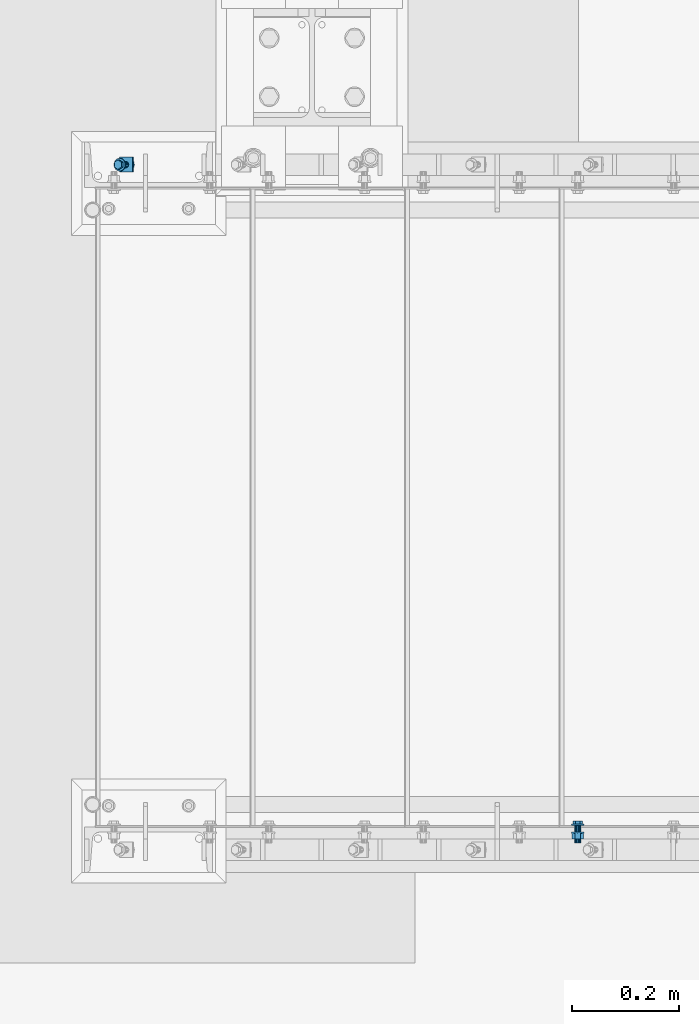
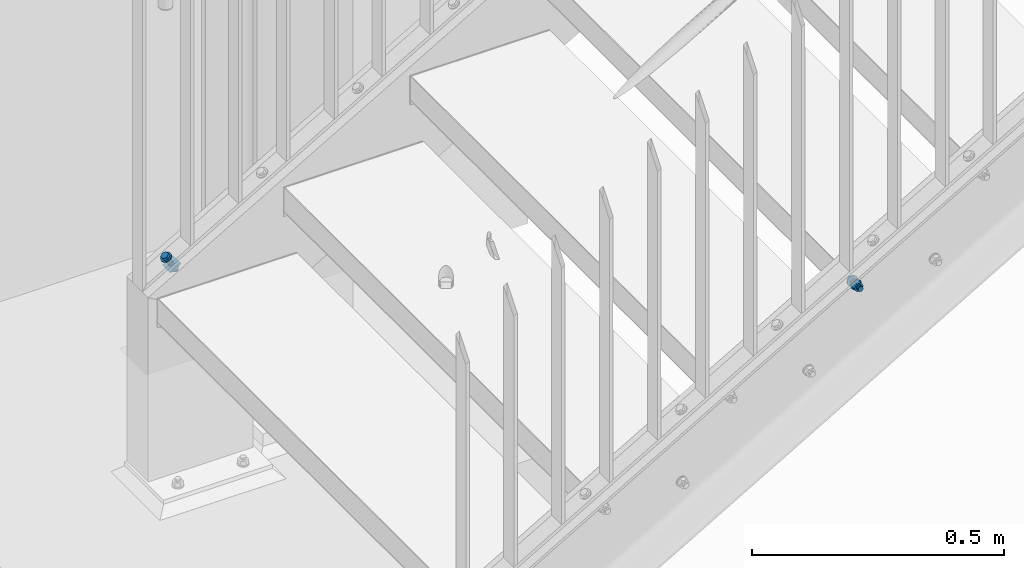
# One storey, part 52 of 145: 2 mechanical fasteners.
"""IFC2X3 building model written with IfcOpenShell, lengths in millimetres."""

from ifc_helpers import new_model, entity, si_unit, converted_unit, origin_with_axes, place, context, project, spatial, faceted_brep, element, save


model = new_model("IFC2X3")

# Units and contexts
model_context = context("Model", 3, precision=1e-09, world=origin_with_axes())
ifc_project = project(units=[si_unit("LENGTHUNIT", "METRE", prefix="MILLI"), si_unit("AREAUNIT", "SQUARE_METRE"), si_unit("VOLUMEUNIT", "CUBIC_METRE"), converted_unit("PLANEANGLEUNIT", "DEGREE", entity("IfcPlaneAngleMeasure", 0.01745329), si_unit("PLANEANGLEUNIT", "RADIAN"), dimensions=[0, 0, 0, 0, 0, 0, 0])], contexts=[model_context])

# Site, building, storey
site_placement = place(None, origin_with_axes())
site = spatial("IfcSite", under=ifc_project, at=site_placement, Name="BZ1 Grund- und Mittelschule 85716 Unterschlei?heim", CompositionType="ELEMENT")
building_placement = place(site_placement, origin_with_axes())
building = spatial("IfcBuilding", under=site, at=building_placement, Name="Struktur 1", CompositionType="ELEMENT")
storey_placement = place(building_placement, origin_with_axes())
storey = spatial("IfcBuildingStorey", under=building, at=storey_placement, Name="Default Storey", CompositionType="ELEMENT", Elevation=0.0)

# Mechanical fasteners
mechanical_fastener_1_placement = place(None, origin_with_axes())
element("IfcMechanicalFastener", 1, at=mechanical_fastener_1_placement, inside=storey, ObjectType="-", NominalDiameter=12.0, NominalLength=45.0, context=model_context, shape_type="Brep", body=[
    faceted_brep([(16700.949497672, -1877.502, -240.94021427), (16699.692769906, -1877.502, -238.779049), (16699.892095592, -1875.160916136, -238.663140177), (16701.148823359, -1875.160916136, -240.824305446), (16700.482412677, -1872.909798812, -238.319868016), (16701.739140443, -1872.909798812, -240.481033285), (16701.441035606, -1870.835157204, -237.762424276), (16702.697763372, -1870.835157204, -239.923589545), (16702.731125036, -1869.016718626, -237.012231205), (16703.987852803, -1869.016718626, -239.173396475), (16704.303103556, -1867.524364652, -236.098118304), (16705.559831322, -1867.524364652, -238.259283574), (16706.096560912, -1866.41544561, -235.055214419), (16707.353288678, -1866.41544561, -237.216379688), (16708.042575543, -1865.732576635, -233.92359776), (16709.299303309, -1865.732576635, -236.08476303), (16710.066363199, -1865.502, -232.746755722), (16711.323090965, -1865.502, -234.907920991), (16712.090150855, -1865.732576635, -231.569913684), (16713.346878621, -1865.732576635, -233.731078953), (16714.036165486, -1866.41544561, -230.438297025), (16715.292893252, -1866.41544561, -232.599462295), (16715.829622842, -1867.524364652, -229.39539314), (16717.086350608, -1867.524364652, -231.556558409), (16717.401601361, -1869.016718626, -228.481280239), (16718.658329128, -1869.016718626, -230.642445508), (16718.691690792, -1870.835157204, -227.731087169), (16719.948418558, -1870.835157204, -229.892252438), (16719.650313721, -1872.909798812, -227.173643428), (16720.907041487, -1872.909798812, -229.334808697), (16720.240630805, -1875.160916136, -226.830371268), (16721.497358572, -1875.160916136, -228.991536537), (16720.439956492, -1877.502, -226.714462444), (16721.696684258, -1877.502, -228.875627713), (16720.240630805, -1879.843083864, -226.830371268), (16721.497358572, -1879.843083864, -228.991536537), (16719.650313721, -1882.094201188, -227.173643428), (16720.907041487, -1882.094201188, -229.334808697), (16718.691690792, -1884.168842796, -227.731087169), (16719.948418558, -1884.168842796, -229.892252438), (16717.401601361, -1885.987281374, -228.481280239), (16718.658329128, -1885.987281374, -230.642445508), (16715.829622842, -1887.479635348, -229.39539314), (16717.086350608, -1887.479635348, -231.556558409), (16714.036165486, -1888.58855439, -230.438297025), (16715.292893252, -1888.58855439, -232.599462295), (16712.090150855, -1889.271423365, -231.569913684), (16713.346878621, -1889.271423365, -233.731078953), (16710.066363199, -1889.502, -232.746755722), (16711.323090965, -1889.502, -234.907920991), (16708.042575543, -1889.271423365, -233.92359776), (16709.299303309, -1889.271423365, -236.08476303), (16706.096560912, -1888.58855439, -235.055214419), (16707.353288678, -1888.58855439, -237.216379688), (16704.303103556, -1887.479635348, -236.098118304), (16705.559831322, -1887.479635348, -238.259283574), (16702.731125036, -1885.987281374, -237.012231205), (16703.987852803, -1885.987281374, -239.173396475), (16701.441035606, -1884.168842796, -237.762424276), (16702.697763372, -1884.168842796, -239.923589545), (16700.482412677, -1882.094201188, -238.319868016), (16701.739140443, -1882.094201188, -240.481033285), (16699.892095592, -1879.843083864, -238.663140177), (16701.148823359, -1879.843083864, -240.824305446)], [[[0, 1, 2, 3]], [[3, 2, 4, 5]], [[5, 4, 6, 7]], [[7, 6, 8, 9]], [[9, 8, 10, 11]], [[11, 10, 12, 13]], [[13, 12, 14, 15]], [[15, 14, 16, 17]], [[17, 16, 18, 19]], [[19, 18, 20, 21]], [[21, 20, 22, 23]], [[23, 22, 24, 25]], [[25, 24, 26, 27]], [[27, 26, 28, 29]], [[29, 28, 30, 31]], [[31, 30, 32, 33]], [[33, 32, 34, 35]], [[35, 34, 36, 37]], [[37, 36, 38, 39]], [[39, 38, 40, 41]], [[41, 40, 42, 43]], [[43, 42, 44, 45]], [[45, 44, 46, 47]], [[47, 46, 48, 49]], [[49, 48, 50, 51]], [[51, 50, 52, 53]], [[53, 52, 54, 55]], [[55, 54, 56, 57]], [[57, 56, 58, 59]], [[59, 58, 60, 61]], [[61, 60, 62, 63]], [[63, 62, 1, 0]], [[2, 1, 62, 60, 58, 56, 54, 52, 50, 48, 46, 44, 42, 40, 38, 36, 34, 32, 30, 28, 26, 24, 22, 20, 18, 16, 14, 12, 10, 8, 6, 4]], [[63, 0, 3, 5, 7, 9, 11, 13, 15, 17, 19, 21, 23, 25, 27, 29, 31, 33, 35, 37, 39, 41, 43, 45, 47, 49, 51, 53, 55, 57, 59, 61]]]),
    faceted_brep([(16713.500891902, -1873.0595, -223.346147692), (16716.718114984, -1873.0595, -228.878730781), (16710.066363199, -1868.617, -232.746755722), (16706.849140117, -1868.617, -227.214172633), (16703.414611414, -1873.0595, -236.614780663), (16700.197388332, -1873.0595, -231.082197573), (16703.414611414, -1881.9445, -236.614780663), (16700.197388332, -1881.9445, -231.082197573), (16710.066363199, -1886.387, -232.746755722), (16706.849140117, -1886.387, -227.214172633), (16716.718114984, -1881.9445, -228.878730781), (16713.500891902, -1881.9445, -223.346147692)], [[[0, 1, 2, 3]], [[3, 2, 4, 5]], [[5, 4, 6, 7]], [[7, 6, 8, 9]], [[9, 8, 10, 11]], [[11, 10, 1, 0]], [[3, 5, 7, 9, 11, 0]], [[2, 1, 10, 8, 6, 4]]]),
    faceted_brep([(16717.036056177, -1877.502, -256.668132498), (16706.136294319, -1877.502, -237.924067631), (16706.531115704, -1875.205899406, -237.694477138), (16717.430877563, -1875.205899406, -256.438542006), (16707.655471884, -1873.259359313, -237.040658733), (16718.555233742, -1873.259359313, -255.7847236), (16709.338189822, -1871.958722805, -236.06215034), (16720.23795168, -1871.958722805, -254.806215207), (16711.323090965, -1871.502, -234.907920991), (16722.222852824, -1871.502, -253.651985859), (16713.307992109, -1871.958722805, -233.753691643), (16724.207753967, -1871.958722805, -252.49775651), (16714.990710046, -1873.259359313, -232.77518325), (16725.890471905, -1873.259359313, -251.519248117), (16716.115066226, -1875.205899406, -232.121364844), (16727.014828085, -1875.205899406, -250.865429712), (16716.509887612, -1877.502, -231.891774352), (16727.40964947, -1877.502, -250.63583922), (16716.115066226, -1879.798100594, -232.121364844), (16727.014828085, -1879.798100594, -250.865429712), (16714.990710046, -1881.744640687, -232.77518325), (16725.890471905, -1881.744640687, -251.519248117), (16713.307992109, -1883.045277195, -233.753691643), (16724.207753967, -1883.045277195, -252.49775651), (16711.323090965, -1883.502, -234.907920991), (16722.222852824, -1883.502, -253.651985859), (16709.338189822, -1883.045277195, -236.06215034), (16720.23795168, -1883.045277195, -254.806215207), (16707.655471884, -1881.744640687, -237.040658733), (16718.555233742, -1881.744640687, -255.7847236), (16706.531115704, -1879.798100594, -237.694477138), (16717.430877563, -1879.798100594, -256.438542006)], [[[0, 1, 2, 3]], [[3, 2, 4, 5]], [[5, 4, 6, 7]], [[7, 6, 8, 9]], [[9, 8, 10, 11]], [[11, 10, 12, 13]], [[13, 12, 14, 15]], [[15, 14, 16, 17]], [[17, 16, 18, 19]], [[19, 18, 20, 21]], [[21, 20, 22, 23]], [[23, 22, 24, 25]], [[25, 24, 26, 27]], [[27, 26, 28, 29]], [[29, 28, 30, 31]], [[31, 30, 1, 0]], [[2, 1, 30, 28, 26, 24, 22, 20, 18, 16, 14, 12, 10, 8, 6, 4]], [[31, 0, 3, 5, 7, 9, 11, 13, 15, 17, 19, 21, 23, 25, 27, 29]]]),
    faceted_brep([(16734.448249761, -1863.359864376, -246.542860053), (16736.459014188, -1863.359864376, -250.000724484), (16712.008220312, -1863.359864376, -264.218976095), (16709.997455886, -1863.359864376, -260.761111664), (16712.008220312, -1891.644135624, -264.218976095), (16709.997455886, -1891.644135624, -260.761111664), (16736.459014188, -1891.644135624, -250.000724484), (16734.448249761, -1891.644135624, -246.542860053)], [[[0, 1, 2, 3]], [[3, 2, 4, 5]], [[5, 4, 6, 7]], [[7, 6, 1, 0]], [[3, 5, 7, 0]], [[2, 1, 6, 4]]]),
    faceted_brep([(16732.131870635, -1872.227, -252.516978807), (16737.158781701, -1872.227, -261.161639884), (16729.260528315, -1866.952, -265.754511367), (16724.23361725, -1866.952, -257.10985029), (16721.36227493, -1872.227, -270.34738285), (16716.335363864, -1872.227, -261.702721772), (16721.36227493, -1882.777, -270.34738285), (16716.335363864, -1882.777, -261.702721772), (16729.260528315, -1888.052, -265.754511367), (16724.23361725, -1888.052, -257.10985029), (16737.158781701, -1882.777, -261.161639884), (16732.131870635, -1882.777, -252.516978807)], [[[0, 1, 2, 3]], [[3, 2, 4, 5]], [[5, 4, 6, 7]], [[7, 6, 8, 9]], [[9, 8, 10, 11]], [[11, 10, 1, 0]], [[3, 5, 7, 9, 11, 0]], [[2, 1, 10, 8, 6, 4]]]),
    faceted_brep([(16727.500666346, -1877.502, -274.663877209), (16724.073731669, -1877.502, -268.770658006), (16724.468553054, -1875.205899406, -268.541067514), (16727.895487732, -1875.205899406, -274.434286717), (16725.592909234, -1873.259359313, -267.887249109), (16729.019843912, -1873.259359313, -273.780468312), (16727.275627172, -1871.958722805, -266.908740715), (16730.702561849, -1871.958722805, -272.801959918), (16729.260528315, -1871.502, -265.754511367), (16732.687462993, -1871.502, -271.64773057), (16731.245429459, -1871.958722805, -264.600282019), (16734.672364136, -1871.958722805, -270.493501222), (16732.928147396, -1873.259359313, -263.621773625), (16736.355082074, -1873.259359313, -269.514992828), (16734.052503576, -1875.205899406, -262.96795522), (16737.479438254, -1875.205899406, -268.861174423), (16734.447324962, -1877.502, -262.738364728), (16737.874259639, -1877.502, -268.631583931), (16734.052503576, -1879.798100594, -262.96795522), (16737.479438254, -1879.798100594, -268.861174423), (16732.928147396, -1881.744640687, -263.621773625), (16736.355082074, -1881.744640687, -269.514992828), (16731.245429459, -1883.045277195, -264.600282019), (16734.672364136, -1883.045277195, -270.493501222), (16729.260528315, -1883.502, -265.754511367), (16732.687462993, -1883.502, -271.64773057), (16727.275627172, -1883.045277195, -266.908740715), (16730.702561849, -1883.045277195, -272.801959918), (16725.592909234, -1881.744640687, -267.887249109), (16729.019843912, -1881.744640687, -273.780468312), (16724.468553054, -1879.798100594, -268.541067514), (16727.895487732, -1879.798100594, -274.434286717)], [[[0, 1, 2, 3]], [[3, 2, 4, 5]], [[5, 4, 6, 7]], [[7, 6, 8, 9]], [[9, 8, 10, 11]], [[11, 10, 12, 13]], [[13, 12, 14, 15]], [[15, 14, 16, 17]], [[17, 16, 18, 19]], [[19, 18, 20, 21]], [[21, 20, 22, 23]], [[23, 22, 24, 25]], [[25, 24, 26, 27]], [[27, 26, 28, 29]], [[29, 28, 30, 31]], [[31, 30, 1, 0]], [[2, 1, 30, 28, 26, 24, 22, 20, 18, 16, 14, 12, 10, 8, 6, 4]], [[31, 0, 3, 5, 7, 9, 11, 13, 15, 17, 19, 21, 23, 25, 27, 29]]]),
])
mechanical_fastener_2_placement = place(None, origin_with_axes())
element("IfcMechanicalFastener", 2, at=mechanical_fastener_2_placement, inside=storey, ObjectType="-", NominalDiameter=12.0, NominalLength=35.0, context=model_context, shape_type="Brep", body=[
    faceted_brep([(17569.545399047, -3114.502, 147.545455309), (17569.545399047, -3117.002, 147.545455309), (17567.204315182, -3117.002, 147.776031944), (17567.204315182, -3114.502, 147.776031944), (17564.953197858, -3117.002, 148.458900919), (17564.953197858, -3114.502, 148.458900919), (17562.87855625, -3117.002, 149.567819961), (17562.87855625, -3114.502, 149.567819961), (17561.060117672, -3117.002, 151.060173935), (17561.060117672, -3114.502, 151.060173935), (17559.567763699, -3117.002, 152.878612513), (17559.567763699, -3114.502, 152.878612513), (17558.458844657, -3117.002, 154.953254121), (17558.458844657, -3114.502, 154.953254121), (17557.775975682, -3117.002, 157.204371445), (17557.775975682, -3114.502, 157.204371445), (17557.545399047, -3117.002, 159.545455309), (17557.545399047, -3114.502, 159.545455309), (17557.775975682, -3117.002, 161.886539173), (17557.775975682, -3114.502, 161.886539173), (17558.458844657, -3117.002, 164.137656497), (17558.458844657, -3114.502, 164.137656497), (17559.567763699, -3117.002, 166.212298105), (17559.567763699, -3114.502, 166.212298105), (17561.060117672, -3117.002, 168.030736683), (17561.060117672, -3114.502, 168.030736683), (17562.87855625, -3117.002, 169.523090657), (17562.87855625, -3114.502, 169.523090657), (17564.953197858, -3117.002, 170.632009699), (17564.953197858, -3114.502, 170.632009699), (17567.204315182, -3117.002, 171.314878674), (17567.204315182, -3114.502, 171.314878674), (17569.545399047, -3117.002, 171.545455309), (17569.545399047, -3114.502, 171.545455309), (17571.886482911, -3117.002, 171.314878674), (17571.886482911, -3114.502, 171.314878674), (17574.137600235, -3117.002, 170.632009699), (17574.137600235, -3114.502, 170.632009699), (17576.212241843, -3117.002, 169.523090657), (17576.212241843, -3114.502, 169.523090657), (17578.030680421, -3117.002, 168.030736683), (17578.030680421, -3114.502, 168.030736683), (17579.523034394, -3117.002, 166.212298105), (17579.523034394, -3114.502, 166.212298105), (17580.631953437, -3117.002, 164.137656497), (17580.631953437, -3114.502, 164.137656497), (17581.314822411, -3117.002, 161.886539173), (17581.314822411, -3114.502, 161.886539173), (17581.545399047, -3117.002, 159.545455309), (17581.545399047, -3114.502, 159.545455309), (17581.314822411, -3117.002, 157.204371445), (17581.314822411, -3114.502, 157.204371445), (17580.631953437, -3117.002, 154.953254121), (17580.631953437, -3114.502, 154.953254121), (17579.523034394, -3117.002, 152.878612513), (17579.523034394, -3114.502, 152.878612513), (17578.030680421, -3117.002, 151.060173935), (17578.030680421, -3114.502, 151.060173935), (17576.212241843, -3117.002, 149.567819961), (17576.212241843, -3114.502, 149.567819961), (17574.137600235, -3117.002, 148.458900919), (17574.137600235, -3114.502, 148.458900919), (17571.886482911, -3117.002, 147.776031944), (17571.886482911, -3114.502, 147.776031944)], [[[0, 1, 2, 3]], [[3, 2, 4, 5]], [[5, 4, 6, 7]], [[7, 6, 8, 9]], [[9, 8, 10, 11]], [[11, 10, 12, 13]], [[13, 12, 14, 15]], [[15, 14, 16, 17]], [[17, 16, 18, 19]], [[19, 18, 20, 21]], [[21, 20, 22, 23]], [[23, 22, 24, 25]], [[25, 24, 26, 27]], [[27, 26, 28, 29]], [[29, 28, 30, 31]], [[31, 30, 32, 33]], [[33, 32, 34, 35]], [[35, 34, 36, 37]], [[37, 36, 38, 39]], [[39, 38, 40, 41]], [[41, 40, 42, 43]], [[43, 42, 44, 45]], [[45, 44, 46, 47]], [[47, 46, 48, 49]], [[49, 48, 50, 51]], [[51, 50, 52, 53]], [[53, 52, 54, 55]], [[55, 54, 56, 57]], [[57, 56, 58, 59]], [[59, 58, 60, 61]], [[61, 60, 62, 63]], [[63, 62, 1, 0]], [[0, 3, 5, 7, 9, 11, 13, 15, 17, 19, 21, 23, 25, 27, 29, 31, 33, 35, 37, 39, 41, 43, 45, 47, 49, 51, 53, 55, 57, 59, 61, 63]], [[1, 62, 60, 58, 56, 54, 52, 50, 48, 46, 44, 42, 40, 38, 36, 34, 32, 30, 28, 26, 24, 22, 20, 18, 16, 14, 12, 10, 8, 6, 4, 2]]]),
    faceted_brep([(17565.102899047, -3114.502, 167.240091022), (17565.102899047, -3108.102, 167.240091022), (17560.660399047, -3108.102, 159.545455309), (17560.660399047, -3114.502, 159.545455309), (17565.102899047, -3108.102, 151.850819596), (17565.102899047, -3114.502, 151.850819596), (17573.987899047, -3108.102, 151.850819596), (17573.987899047, -3114.502, 151.850819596), (17578.430399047, -3108.102, 159.545455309), (17578.430399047, -3114.502, 159.545455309), (17573.987899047, -3108.102, 167.240091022), (17573.987899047, -3114.502, 167.240091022)], [[[0, 1, 2, 3]], [[3, 2, 4, 5]], [[5, 4, 6, 7]], [[7, 6, 8, 9]], [[9, 8, 10, 11]], [[11, 10, 1, 0]], [[4, 2, 1, 10, 8, 6]], [[0, 3, 5, 7, 9, 11]]]),
    faceted_brep([(17569.545399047, -3117.002, 153.545455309), (17569.545399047, -3129.502, 153.545455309), (17567.249298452, -3129.502, 154.002178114), (17567.249298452, -3117.002, 154.002178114), (17565.30275836, -3129.502, 155.302814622), (17565.30275836, -3117.002, 155.302814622), (17564.002121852, -3129.502, 157.249354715), (17564.002121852, -3117.002, 157.249354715), (17563.545399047, -3129.502, 159.545455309), (17563.545399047, -3117.002, 159.545455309), (17564.002121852, -3129.502, 161.841555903), (17564.002121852, -3117.002, 161.841555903), (17565.30275836, -3129.502, 163.788095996), (17565.30275836, -3117.002, 163.788095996), (17567.249298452, -3129.502, 165.088732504), (17567.249298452, -3117.002, 165.088732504), (17569.545399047, -3129.502, 165.545455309), (17569.545399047, -3117.002, 165.545455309), (17571.841499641, -3129.502, 165.088732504), (17571.841499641, -3117.002, 165.088732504), (17573.788039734, -3129.502, 163.788095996), (17573.788039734, -3117.002, 163.788095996), (17575.088676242, -3129.502, 161.841555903), (17575.088676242, -3117.002, 161.841555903), (17575.545399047, -3129.502, 159.545455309), (17575.545399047, -3117.002, 159.545455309), (17575.088676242, -3129.502, 157.249354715), (17575.088676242, -3117.002, 157.249354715), (17573.788039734, -3129.502, 155.302814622), (17573.788039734, -3117.002, 155.302814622), (17571.841499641, -3129.502, 154.002178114), (17571.841499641, -3117.002, 154.002178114)], [[[0, 1, 2, 3]], [[3, 2, 4, 5]], [[5, 4, 6, 7]], [[7, 6, 8, 9]], [[9, 8, 10, 11]], [[11, 10, 12, 13]], [[13, 12, 14, 15]], [[15, 14, 16, 17]], [[17, 16, 18, 19]], [[19, 18, 20, 21]], [[21, 20, 22, 23]], [[23, 22, 24, 25]], [[25, 24, 26, 27]], [[27, 26, 28, 29]], [[29, 28, 30, 31]], [[31, 30, 1, 0]], [[0, 3, 5, 7, 9, 11, 13, 15, 17, 19, 21, 23, 25, 27, 29, 31]], [[1, 30, 28, 26, 24, 22, 20, 18, 16, 14, 12, 10, 8, 6, 4, 2]]]),
    faceted_brep([(17569.545399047, -3129.502, 147.545455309), (17569.545399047, -3132.002, 147.545455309), (17567.204315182, -3132.002, 147.776031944), (17567.204315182, -3129.502, 147.776031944), (17564.953197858, -3132.002, 148.458900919), (17564.953197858, -3129.502, 148.458900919), (17562.87855625, -3132.002, 149.567819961), (17562.87855625, -3129.502, 149.567819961), (17561.060117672, -3132.002, 151.060173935), (17561.060117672, -3129.502, 151.060173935), (17559.567763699, -3132.002, 152.878612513), (17559.567763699, -3129.502, 152.878612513), (17558.458844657, -3132.002, 154.953254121), (17558.458844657, -3129.502, 154.953254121), (17557.775975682, -3132.002, 157.204371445), (17557.775975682, -3129.502, 157.204371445), (17557.545399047, -3132.002, 159.545455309), (17557.545399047, -3129.502, 159.545455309), (17557.775975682, -3132.002, 161.886539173), (17557.775975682, -3129.502, 161.886539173), (17558.458844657, -3132.002, 164.137656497), (17558.458844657, -3129.502, 164.137656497), (17559.567763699, -3132.002, 166.212298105), (17559.567763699, -3129.502, 166.212298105), (17561.060117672, -3132.002, 168.030736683), (17561.060117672, -3129.502, 168.030736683), (17562.87855625, -3132.002, 169.523090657), (17562.87855625, -3129.502, 169.523090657), (17564.953197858, -3132.002, 170.632009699), (17564.953197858, -3129.502, 170.632009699), (17567.204315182, -3132.002, 171.314878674), (17567.204315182, -3129.502, 171.314878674), (17569.545399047, -3132.002, 171.545455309), (17569.545399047, -3129.502, 171.545455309), (17571.886482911, -3132.002, 171.314878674), (17571.886482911, -3129.502, 171.314878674), (17574.137600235, -3132.002, 170.632009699), (17574.137600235, -3129.502, 170.632009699), (17576.212241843, -3132.002, 169.523090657), (17576.212241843, -3129.502, 169.523090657), (17578.030680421, -3132.002, 168.030736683), (17578.030680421, -3129.502, 168.030736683), (17579.523034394, -3132.002, 166.212298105), (17579.523034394, -3129.502, 166.212298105), (17580.631953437, -3132.002, 164.137656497), (17580.631953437, -3129.502, 164.137656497), (17581.314822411, -3132.002, 161.886539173), (17581.314822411, -3129.502, 161.886539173), (17581.545399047, -3132.002, 159.545455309), (17581.545399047, -3129.502, 159.545455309), (17581.314822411, -3132.002, 157.204371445), (17581.314822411, -3129.502, 157.204371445), (17580.631953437, -3132.002, 154.953254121), (17580.631953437, -3129.502, 154.953254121), (17579.523034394, -3132.002, 152.878612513), (17579.523034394, -3129.502, 152.878612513), (17578.030680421, -3132.002, 151.060173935), (17578.030680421, -3129.502, 151.060173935), (17576.212241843, -3132.002, 149.567819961), (17576.212241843, -3129.502, 149.567819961), (17574.137600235, -3132.002, 148.458900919), (17574.137600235, -3129.502, 148.458900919), (17571.886482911, -3132.002, 147.776031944), (17571.886482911, -3129.502, 147.776031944)], [[[0, 1, 2, 3]], [[3, 2, 4, 5]], [[5, 4, 6, 7]], [[7, 6, 8, 9]], [[9, 8, 10, 11]], [[11, 10, 12, 13]], [[13, 12, 14, 15]], [[15, 14, 16, 17]], [[17, 16, 18, 19]], [[19, 18, 20, 21]], [[21, 20, 22, 23]], [[23, 22, 24, 25]], [[25, 24, 26, 27]], [[27, 26, 28, 29]], [[29, 28, 30, 31]], [[31, 30, 32, 33]], [[33, 32, 34, 35]], [[35, 34, 36, 37]], [[37, 36, 38, 39]], [[39, 38, 40, 41]], [[41, 40, 42, 43]], [[43, 42, 44, 45]], [[45, 44, 46, 47]], [[47, 46, 48, 49]], [[49, 48, 50, 51]], [[51, 50, 52, 53]], [[53, 52, 54, 55]], [[55, 54, 56, 57]], [[57, 56, 58, 59]], [[59, 58, 60, 61]], [[61, 60, 62, 63]], [[63, 62, 1, 0]], [[0, 3, 5, 7, 9, 11, 13, 15, 17, 19, 21, 23, 25, 27, 29, 31, 33, 35, 37, 39, 41, 43, 45, 47, 49, 51, 53, 55, 57, 59, 61, 63]], [[1, 62, 60, 58, 56, 54, 52, 50, 48, 46, 44, 42, 40, 38, 36, 34, 32, 30, 28, 26, 24, 22, 20, 18, 16, 14, 12, 10, 8, 6, 4, 2]]]),
    faceted_brep([(17564.270399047, -3142.002, 168.682023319), (17564.270399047, -3132.002, 168.682023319), (17558.995399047, -3132.002, 159.545455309), (17558.995399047, -3142.002, 159.545455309), (17564.270399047, -3132.002, 150.408887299), (17564.270399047, -3142.002, 150.408887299), (17574.820399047, -3132.002, 150.408887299), (17574.820399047, -3142.002, 150.408887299), (17580.095399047, -3132.002, 159.545455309), (17580.095399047, -3142.002, 159.545455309), (17574.820399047, -3132.002, 168.682023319), (17574.820399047, -3142.002, 168.682023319)], [[[0, 1, 2, 3]], [[3, 2, 4, 5]], [[5, 4, 6, 7]], [[7, 6, 8, 9]], [[9, 8, 10, 11]], [[11, 10, 1, 0]], [[4, 2, 1, 10, 8, 6]], [[0, 3, 5, 7, 9, 11]]]),
    faceted_brep([(17569.545399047, -3142.002, 153.545455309), (17569.545399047, -3149.502, 153.545455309), (17567.249298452, -3149.502, 154.002178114), (17567.249298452, -3142.002, 154.002178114), (17565.30275836, -3149.502, 155.302814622), (17565.30275836, -3142.002, 155.302814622), (17564.002121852, -3149.502, 157.249354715), (17564.002121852, -3142.002, 157.249354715), (17563.545399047, -3149.502, 159.545455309), (17563.545399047, -3142.002, 159.545455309), (17564.002121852, -3149.502, 161.841555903), (17564.002121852, -3142.002, 161.841555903), (17565.30275836, -3149.502, 163.788095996), (17565.30275836, -3142.002, 163.788095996), (17567.249298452, -3149.502, 165.088732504), (17567.249298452, -3142.002, 165.088732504), (17569.545399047, -3149.502, 165.545455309), (17569.545399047, -3142.002, 165.545455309), (17571.841499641, -3149.502, 165.088732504), (17571.841499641, -3142.002, 165.088732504), (17573.788039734, -3149.502, 163.788095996), (17573.788039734, -3142.002, 163.788095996), (17575.088676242, -3149.502, 161.841555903), (17575.088676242, -3142.002, 161.841555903), (17575.545399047, -3149.502, 159.545455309), (17575.545399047, -3142.002, 159.545455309), (17575.088676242, -3149.502, 157.249354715), (17575.088676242, -3142.002, 157.249354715), (17573.788039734, -3149.502, 155.302814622), (17573.788039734, -3142.002, 155.302814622), (17571.841499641, -3149.502, 154.002178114), (17571.841499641, -3142.002, 154.002178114)], [[[0, 1, 2, 3]], [[3, 2, 4, 5]], [[5, 4, 6, 7]], [[7, 6, 8, 9]], [[9, 8, 10, 11]], [[11, 10, 12, 13]], [[13, 12, 14, 15]], [[15, 14, 16, 17]], [[17, 16, 18, 19]], [[19, 18, 20, 21]], [[21, 20, 22, 23]], [[23, 22, 24, 25]], [[25, 24, 26, 27]], [[27, 26, 28, 29]], [[29, 28, 30, 31]], [[31, 30, 1, 0]], [[0, 3, 5, 7, 9, 11, 13, 15, 17, 19, 21, 23, 25, 27, 29, 31]], [[1, 30, 28, 26, 24, 22, 20, 18, 16, 14, 12, 10, 8, 6, 4, 2]]]),
])

save(model, "model.ifc")
